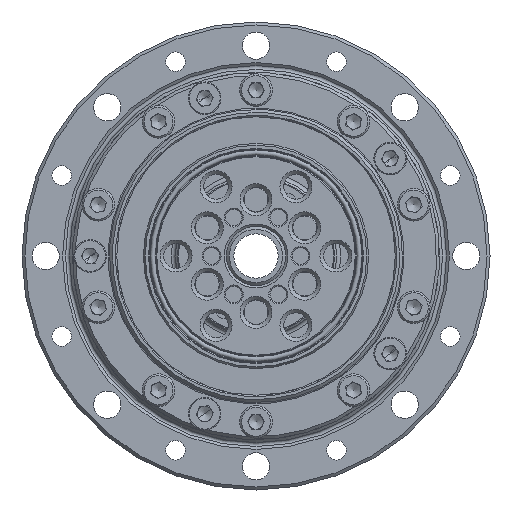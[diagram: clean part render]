
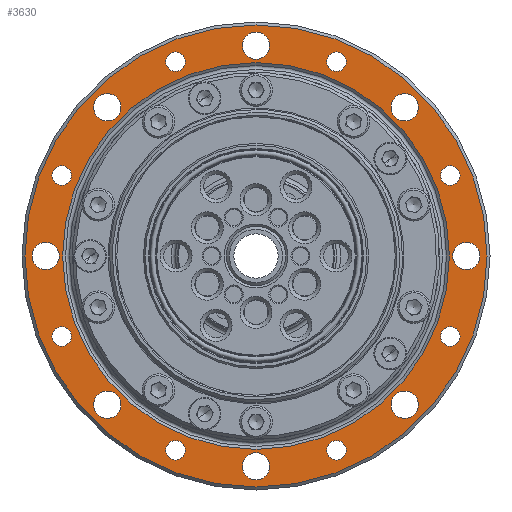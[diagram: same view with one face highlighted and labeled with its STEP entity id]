
A CAD part, left-side view. The second image highlights one B-rep face of the part: STEP entity #3630.
In plain terms, the highlighted planar face has unit normal (-1, 0, 0).
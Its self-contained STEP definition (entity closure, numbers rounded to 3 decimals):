
#857=FACE_BOUND('',#6073,.T.);
#858=FACE_BOUND('',#6074,.T.);
#859=FACE_BOUND('',#6075,.T.);
#860=FACE_BOUND('',#6076,.T.);
#861=FACE_BOUND('',#6077,.T.);
#862=FACE_BOUND('',#6078,.T.);
#863=FACE_BOUND('',#6079,.T.);
#864=FACE_BOUND('',#6080,.T.);
#865=FACE_BOUND('',#6081,.T.);
#866=FACE_BOUND('',#6082,.T.);
#867=FACE_BOUND('',#6083,.T.);
#868=FACE_BOUND('',#6084,.T.);
#869=FACE_BOUND('',#6085,.T.);
#870=FACE_BOUND('',#6086,.T.);
#871=FACE_BOUND('',#6087,.T.);
#872=FACE_BOUND('',#6088,.T.);
#873=FACE_BOUND('',#6089,.T.);
#874=FACE_BOUND('',#6090,.T.);
#3630=ADVANCED_FACE('',(#857,#858,#859,#860,#861,#862,#863,#864,#865,#866,
#867,#868,#869,#870,#871,#872,#873,#874),#4750,.T.);
#4750=PLANE('',#18679);
#6073=EDGE_LOOP('',(#8936));
#6074=EDGE_LOOP('',(#8937));
#6075=EDGE_LOOP('',(#8938));
#6076=EDGE_LOOP('',(#8939));
#6077=EDGE_LOOP('',(#8940));
#6078=EDGE_LOOP('',(#8941));
#6079=EDGE_LOOP('',(#8942));
#6080=EDGE_LOOP('',(#8943));
#6081=EDGE_LOOP('',(#8944));
#6082=EDGE_LOOP('',(#8945));
#6083=EDGE_LOOP('',(#8946));
#6084=EDGE_LOOP('',(#8947));
#6085=EDGE_LOOP('',(#8948));
#6086=EDGE_LOOP('',(#8949));
#6087=EDGE_LOOP('',(#8950));
#6088=EDGE_LOOP('',(#8951));
#6089=EDGE_LOOP('',(#8952));
#6090=EDGE_LOOP('',(#8953));
#8936=ORIENTED_EDGE('',*,*,#13959,.T.);
#8937=ORIENTED_EDGE('',*,*,#13960,.T.);
#8938=ORIENTED_EDGE('',*,*,#13961,.T.);
#8939=ORIENTED_EDGE('',*,*,#13962,.T.);
#8940=ORIENTED_EDGE('',*,*,#13963,.T.);
#8941=ORIENTED_EDGE('',*,*,#13964,.T.);
#8942=ORIENTED_EDGE('',*,*,#13965,.T.);
#8943=ORIENTED_EDGE('',*,*,#13966,.T.);
#8944=ORIENTED_EDGE('',*,*,#13967,.T.);
#8945=ORIENTED_EDGE('',*,*,#13968,.T.);
#8946=ORIENTED_EDGE('',*,*,#13969,.T.);
#8947=ORIENTED_EDGE('',*,*,#13970,.T.);
#8948=ORIENTED_EDGE('',*,*,#13971,.T.);
#8949=ORIENTED_EDGE('',*,*,#13972,.T.);
#8950=ORIENTED_EDGE('',*,*,#13973,.T.);
#8951=ORIENTED_EDGE('',*,*,#13974,.T.);
#8952=ORIENTED_EDGE('',*,*,#13975,.T.);
#8953=ORIENTED_EDGE('',*,*,#13958,.F.);
#12237=VERTEX_POINT('',#29916);
#12238=VERTEX_POINT('',#29919);
#12239=VERTEX_POINT('',#29921);
#12240=VERTEX_POINT('',#29923);
#12241=VERTEX_POINT('',#29925);
#12242=VERTEX_POINT('',#29927);
#12243=VERTEX_POINT('',#29929);
#12244=VERTEX_POINT('',#29931);
#12245=VERTEX_POINT('',#29933);
#12246=VERTEX_POINT('',#29935);
#12247=VERTEX_POINT('',#29937);
#12248=VERTEX_POINT('',#29939);
#12249=VERTEX_POINT('',#29941);
#12250=VERTEX_POINT('',#29943);
#12251=VERTEX_POINT('',#29945);
#12252=VERTEX_POINT('',#29947);
#12253=VERTEX_POINT('',#29949);
#12254=VERTEX_POINT('',#29951);
#13958=EDGE_CURVE('',#12237,#12237,#17019,.T.);
#13959=EDGE_CURVE('',#12238,#12238,#17020,.T.);
#13960=EDGE_CURVE('',#12239,#12239,#17021,.T.);
#13961=EDGE_CURVE('',#12240,#12240,#17022,.T.);
#13962=EDGE_CURVE('',#12241,#12241,#17023,.T.);
#13963=EDGE_CURVE('',#12242,#12242,#17024,.T.);
#13964=EDGE_CURVE('',#12243,#12243,#17025,.T.);
#13965=EDGE_CURVE('',#12244,#12244,#17026,.T.);
#13966=EDGE_CURVE('',#12245,#12245,#17027,.T.);
#13967=EDGE_CURVE('',#12246,#12246,#17028,.T.);
#13968=EDGE_CURVE('',#12247,#12247,#17029,.T.);
#13969=EDGE_CURVE('',#12248,#12248,#17030,.T.);
#13970=EDGE_CURVE('',#12249,#12249,#17031,.T.);
#13971=EDGE_CURVE('',#12250,#12250,#17032,.T.);
#13972=EDGE_CURVE('',#12251,#12251,#17033,.T.);
#13973=EDGE_CURVE('',#12252,#12252,#17034,.T.);
#13974=EDGE_CURVE('',#12253,#12253,#17035,.T.);
#13975=EDGE_CURVE('',#12254,#12254,#17036,.T.);
#17019=CIRCLE('',#18660,32.641);
#17020=CIRCLE('',#18662,39.);
#17021=CIRCLE('',#18663,1.65);
#17022=CIRCLE('',#18664,1.65);
#17023=CIRCLE('',#18665,1.65);
#17024=CIRCLE('',#18666,1.65);
#17025=CIRCLE('',#18667,1.65);
#17026=CIRCLE('',#18668,1.65);
#17027=CIRCLE('',#18669,1.65);
#17028=CIRCLE('',#18670,1.65);
#17029=CIRCLE('',#18671,2.3);
#17030=CIRCLE('',#18672,2.3);
#17031=CIRCLE('',#18673,2.3);
#17032=CIRCLE('',#18674,2.3);
#17033=CIRCLE('',#18675,2.3);
#17034=CIRCLE('',#18676,2.3);
#17035=CIRCLE('',#18677,2.3);
#17036=CIRCLE('',#18678,2.3);
#18660=AXIS2_PLACEMENT_3D('',#29915,#21671,#21672);
#18662=AXIS2_PLACEMENT_3D('',#29918,#21675,#21676);
#18663=AXIS2_PLACEMENT_3D('',#29920,#21677,#21678);
#18664=AXIS2_PLACEMENT_3D('',#29922,#21679,#21680);
#18665=AXIS2_PLACEMENT_3D('',#29924,#21681,#21682);
#18666=AXIS2_PLACEMENT_3D('',#29926,#21683,#21684);
#18667=AXIS2_PLACEMENT_3D('',#29928,#21685,#21686);
#18668=AXIS2_PLACEMENT_3D('',#29930,#21687,#21688);
#18669=AXIS2_PLACEMENT_3D('',#29932,#21689,#21690);
#18670=AXIS2_PLACEMENT_3D('',#29934,#21691,#21692);
#18671=AXIS2_PLACEMENT_3D('',#29936,#21693,#21694);
#18672=AXIS2_PLACEMENT_3D('',#29938,#21695,#21696);
#18673=AXIS2_PLACEMENT_3D('',#29940,#21697,#21698);
#18674=AXIS2_PLACEMENT_3D('',#29942,#21699,#21700);
#18675=AXIS2_PLACEMENT_3D('',#29944,#21701,#21702);
#18676=AXIS2_PLACEMENT_3D('',#29946,#21703,#21704);
#18677=AXIS2_PLACEMENT_3D('',#29948,#21705,#21706);
#18678=AXIS2_PLACEMENT_3D('',#29950,#21707,#21708);
#18679=AXIS2_PLACEMENT_3D('',#29952,#21709,#21710);
#21671=DIRECTION('',(-1.,0.,0.));
#21672=DIRECTION('',(0.,0.,1.));
#21675=DIRECTION('',(-1.,0.,0.));
#21676=DIRECTION('',(0.,0.,1.));
#21677=DIRECTION('',(1.,0.,0.));
#21678=DIRECTION('',(0.,0.,-1.));
#21679=DIRECTION('',(1.,0.,0.));
#21680=DIRECTION('',(0.,0.,-1.));
#21681=DIRECTION('',(1.,0.,0.));
#21682=DIRECTION('',(0.,0.,-1.));
#21683=DIRECTION('',(1.,0.,0.));
#21684=DIRECTION('',(0.,0.,-1.));
#21685=DIRECTION('',(1.,0.,0.));
#21686=DIRECTION('',(0.,0.,-1.));
#21687=DIRECTION('',(1.,0.,0.));
#21688=DIRECTION('',(0.,0.,-1.));
#21689=DIRECTION('',(1.,0.,0.));
#21690=DIRECTION('',(0.,0.,-1.));
#21691=DIRECTION('',(1.,0.,0.));
#21692=DIRECTION('',(0.,0.,-1.));
#21693=DIRECTION('',(1.,0.,0.));
#21694=DIRECTION('',(0.,0.,-1.));
#21695=DIRECTION('',(1.,0.,0.));
#21696=DIRECTION('',(0.,0.,-1.));
#21697=DIRECTION('',(1.,0.,0.));
#21698=DIRECTION('',(0.,0.,-1.));
#21699=DIRECTION('',(1.,0.,0.));
#21700=DIRECTION('',(0.,0.,-1.));
#21701=DIRECTION('',(1.,0.,0.));
#21702=DIRECTION('',(0.,0.,-1.));
#21703=DIRECTION('',(1.,0.,0.));
#21704=DIRECTION('',(0.,0.,-1.));
#21705=DIRECTION('',(1.,0.,0.));
#21706=DIRECTION('',(0.,0.,-1.));
#21707=DIRECTION('',(1.,0.,0.));
#21708=DIRECTION('',(0.,0.,-1.));
#21709=DIRECTION('',(-1.,0.,0.));
#21710=DIRECTION('',(0.,0.,1.));
#29915=CARTESIAN_POINT('',(-8.,0.,0.));
#29916=CARTESIAN_POINT('',(-8.,0.,32.641));
#29918=CARTESIAN_POINT('',(-8.,0.,0.));
#29919=CARTESIAN_POINT('',(-8.,0.,39.));
#29920=CARTESIAN_POINT('',(-8.,-32.798,13.585));
#29921=CARTESIAN_POINT('',(-8.,-32.798,11.935));
#29922=CARTESIAN_POINT('',(-8.,-13.585,32.798));
#29923=CARTESIAN_POINT('',(-8.,-13.585,31.148));
#29924=CARTESIAN_POINT('',(-8.,13.585,32.798));
#29925=CARTESIAN_POINT('',(-8.,13.585,31.148));
#29926=CARTESIAN_POINT('',(-8.,32.798,13.585));
#29927=CARTESIAN_POINT('',(-8.,32.798,11.935));
#29928=CARTESIAN_POINT('',(-8.,32.798,-13.585));
#29929=CARTESIAN_POINT('',(-8.,32.798,-15.235));
#29930=CARTESIAN_POINT('',(-8.,13.585,-32.798));
#29931=CARTESIAN_POINT('',(-8.,13.585,-34.448));
#29932=CARTESIAN_POINT('',(-8.,-13.585,-32.798));
#29933=CARTESIAN_POINT('',(-8.,-13.585,-34.448));
#29934=CARTESIAN_POINT('',(-8.,-32.798,-13.585));
#29935=CARTESIAN_POINT('',(-8.,-32.798,-15.235));
#29936=CARTESIAN_POINT('',(-8.,25.102,25.102));
#29937=CARTESIAN_POINT('',(-8.,25.102,22.802));
#29938=CARTESIAN_POINT('',(-8.,35.5,0.));
#29939=CARTESIAN_POINT('',(-8.,35.5,-2.3));
#29940=CARTESIAN_POINT('',(-8.,25.102,-25.102));
#29941=CARTESIAN_POINT('',(-8.,25.102,-27.402));
#29942=CARTESIAN_POINT('',(-8.,0.,-35.5));
#29943=CARTESIAN_POINT('',(-8.,0.,-37.8));
#29944=CARTESIAN_POINT('',(-8.,-25.102,-25.102));
#29945=CARTESIAN_POINT('',(-8.,-25.102,-27.402));
#29946=CARTESIAN_POINT('',(-8.,-35.5,0.));
#29947=CARTESIAN_POINT('',(-8.,-35.5,-2.3));
#29948=CARTESIAN_POINT('',(-8.,-25.102,25.102));
#29949=CARTESIAN_POINT('',(-8.,-25.102,22.802));
#29950=CARTESIAN_POINT('',(-8.,0.,35.5));
#29951=CARTESIAN_POINT('',(-8.,0.,33.2));
#29952=CARTESIAN_POINT('',(-8.,0.,32.641));
